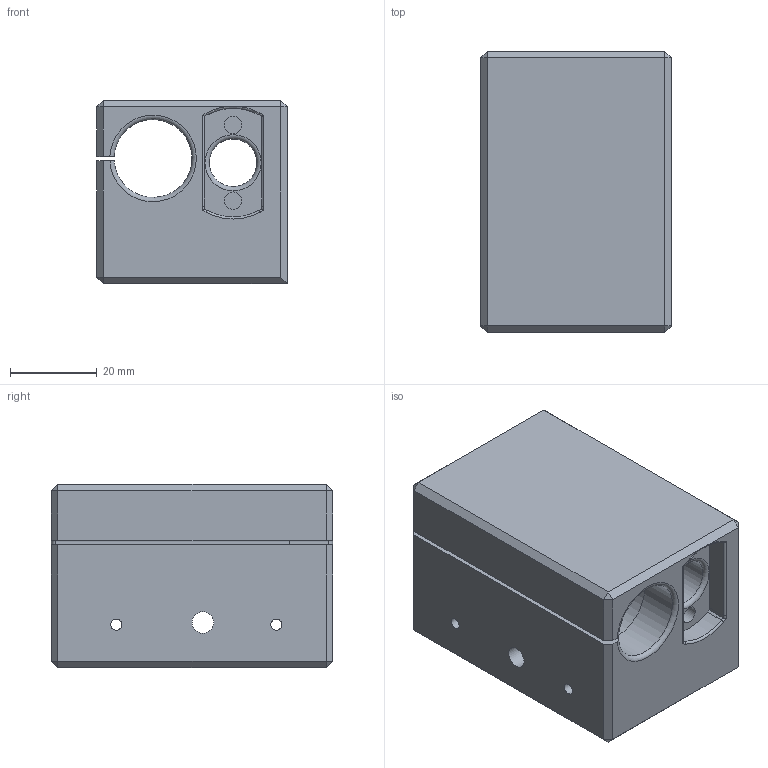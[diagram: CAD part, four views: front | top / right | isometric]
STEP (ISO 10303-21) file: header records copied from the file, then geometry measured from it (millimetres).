
FILE_DESCRIPTION(/* description */ ('STEP AP242','CAx-IF Rec.Pracs.---Representation and Presentation of Product Manufacturing Information (PMI)---4.0---2014-10-13','CAx-IF Rec.Pracs.---3D Tessellated Geometry---0.4---2014-09-14','2;1'),/* implementation_level */ '2;1');
FILE_NAME(/* name */ '6484440559e7e81ebf6ec92c',/* time_stamp */ '2023-06-10T09:36:06Z',/* author */ (''),/* organization */ (''),/* preprocessor_version */ 'ST-DEVELOPER v19.4',/* originating_system */ ' ',/* authorisation */ ' ');
FILE_SCHEMA (('AP242_MANAGED_MODEL_BASED_3D_ENGINEERING_MIM_LF { 1 0 10303 442 1 1 4 }'));
Length unit declared in the file: metre
Products named in the file (1): Right Block
Bounding box: 44 x 65 x 42.5 mm (x, y, z)
Volume: 78724.6 mm3; surface area: 24820.8 mm2
Topology: 1 solids, 1 shells, 122 faces, 317 edges, 201 vertices
Faces by surface type: plane 86, cylinder 28, torus 8
Full cylindrical faces by diameter (mm): 2.6 x2, 4 x2, 5 x1, 8 x2, 11 x1
Entity records: 3701 total; most frequent: CARTESIAN_POINT 739, ORIENTED_EDGE 600, DIRECTION 590, EDGE_CURVE 300, LINE 238, VECTOR 238, VERTEX_POINT 196, AXIS2_PLACEMENT_3D 176
